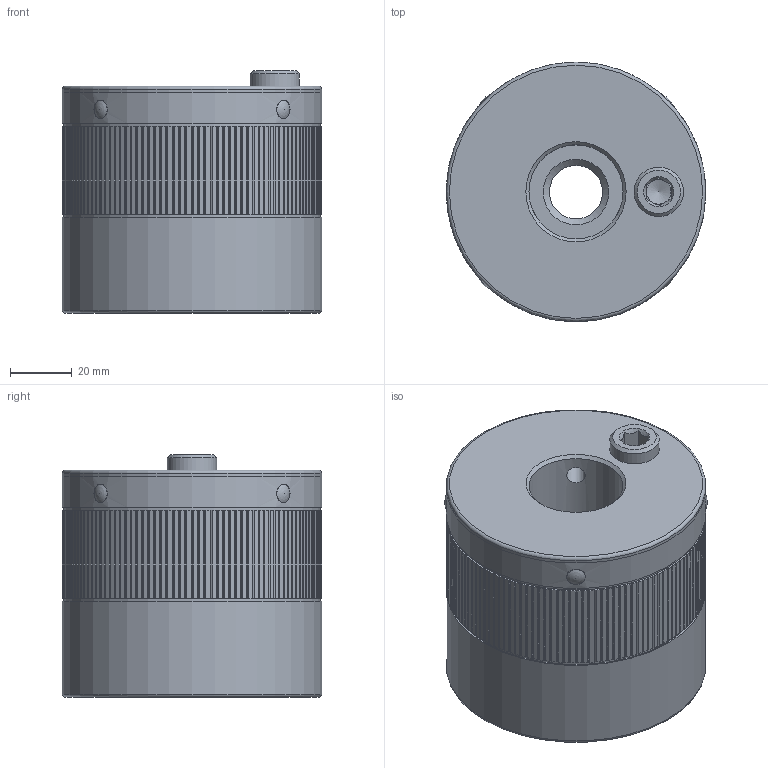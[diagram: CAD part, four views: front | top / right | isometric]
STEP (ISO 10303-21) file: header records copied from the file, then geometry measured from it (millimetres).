
FILE_DESCRIPTION(/* description */ ('Unknown','CAx-IF Rec.Pracs.---Representation and Presentation of Product Manufacturing Information (PMI)---4.0---2014-10-13','CAx-IF Rec.Pracs.---3D Tessellated Geometry---0.4---2014-09-14','2;1'),/* implementation_level */ '2;1');
FILE_NAME(/* name */ 'MDA 120_SW8_M20',/* time_stamp */ '2023-09-15T11:22:02+02:00',/* author */ ('Unknown'),/* organization */ ('Unknown'),/* preprocessor_version */ 'ST-DEVELOPER v18.102',/* originating_system */ 'Solid Edge',/* authorisation */ 'Unknown');
FILE_SCHEMA (('AP242_MANAGED_MODEL_BASED_3D_ENGINEERING_MIM_LF { 1 0 10303 442 1 1 4 }'));
Length unit declared in the file: millimetre
Products named in the file (7): 05933090; 43733046; 42231915; 46431916; KT100003; KT101191; 46331547
Assembly tree (9 placements, depth 2):
  05933090
    43733046
    42231915
    46431916
    KT100003  x4
    KT101191
    46331547
Bounding box: 84 x 84 x 78.5 mm (x, y, z)
Volume: 356403.2 mm3; surface area: 106396.3 mm2
Topology: 9 solids, 9 shells, 506 faces, 1424 edges, 939 vertices
Faces by surface type: plane 290, cylinder 167, cone 25, torus 10, sphere 8, bspline 6
Full cylindrical faces by diameter (mm): 1.6 x1, 6 x12, 8 x1, 16 x2, 16.5 x1, 17.294 x1, 30.5 x1, 48 x3, 66.2 x1, 71 x1, 74 x1, 76.5 x1, 76.9 x1, 77 x3, 83 x2, 84 x3
Entity records: 16169 total; most frequent: CARTESIAN_POINT 3316, DIRECTION 2606, ORIENTED_EDGE 2596, EDGE_CURVE 1298, LINE 918, VECTOR 918, VERTEX_POINT 900, AXIS2_PLACEMENT_3D 844
